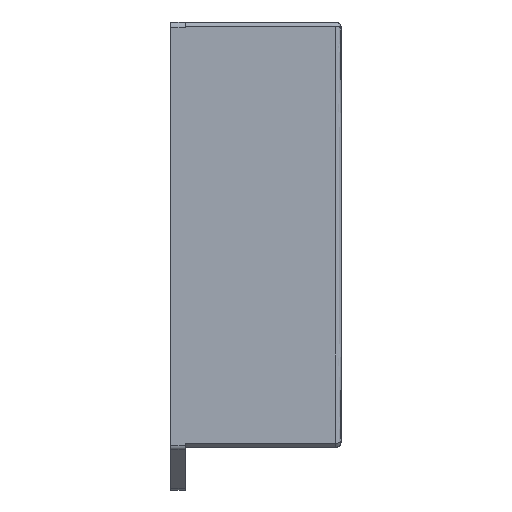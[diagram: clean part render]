
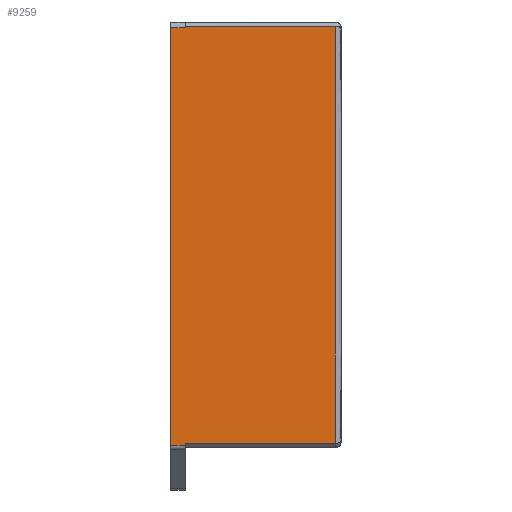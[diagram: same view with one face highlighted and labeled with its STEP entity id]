
A CAD part, left-side view. The second image highlights one B-rep face of the part: STEP entity #9259.
In plain terms, the highlighted free-form (B-spline) face has degree [1, 1] with [2, 2] control points.
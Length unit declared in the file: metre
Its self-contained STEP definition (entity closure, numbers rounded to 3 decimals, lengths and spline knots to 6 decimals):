
#42=LINE('',#12450,#952);
#49=LINE('',#12499,#959);
#205=LINE('',#13135,#1115);
#206=LINE('',#13137,#1116);
#207=LINE('',#13139,#1117);
#208=LINE('',#13140,#1118);
#209=LINE('',#13142,#1119);
#210=LINE('',#13144,#1120);
#952=VECTOR('',#10409,1.);
#959=VECTOR('',#10440,1.);
#1115=VECTOR('',#10834,1.);
#1116=VECTOR('',#10835,1.);
#1117=VECTOR('',#10836,1.);
#1118=VECTOR('',#10837,1.);
#1119=VECTOR('',#10838,1.);
#1120=VECTOR('',#10839,1.);
#1866=B_SPLINE_SURFACE_WITH_KNOTS('',1,1,((#13131,#13132),(#13133,#13134)),
 .PLANE_SURF.,.F.,.F.,.F.,(2,2),(2,2),(0.,1.),(0.,1.),.UNSPECIFIED.);
#2571=ORIENTED_EDGE('',*,*,#5094,.T.);
#2572=ORIENTED_EDGE('',*,*,#5375,.T.);
#2573=ORIENTED_EDGE('',*,*,#5376,.T.);
#2574=ORIENTED_EDGE('',*,*,#5377,.T.);
#2575=ORIENTED_EDGE('',*,*,#5075,.F.);
#2576=ORIENTED_EDGE('',*,*,#5378,.F.);
#2577=ORIENTED_EDGE('',*,*,#5379,.T.);
#2578=ORIENTED_EDGE('',*,*,#5380,.T.);
#5075=EDGE_CURVE('',#6474,#6476,#42,.T.);
#5094=EDGE_CURVE('',#6486,#6487,#49,.T.);
#5375=EDGE_CURVE('',#6487,#6763,#205,.T.);
#5376=EDGE_CURVE('',#6763,#6764,#206,.T.);
#5377=EDGE_CURVE('',#6764,#6476,#207,.F.);
#5378=EDGE_CURVE('',#6765,#6474,#208,.T.);
#5379=EDGE_CURVE('',#6765,#6766,#209,.F.);
#5380=EDGE_CURVE('',#6766,#6486,#210,.F.);
#6474=VERTEX_POINT('',#12448);
#6476=VERTEX_POINT('',#12451);
#6486=VERTEX_POINT('',#12500);
#6487=VERTEX_POINT('',#12501);
#6763=VERTEX_POINT('',#13136);
#6764=VERTEX_POINT('',#13138);
#6765=VERTEX_POINT('',#13141);
#6766=VERTEX_POINT('',#13143);
#7852=EDGE_LOOP('',(#2571,#2572,#2573,#2574,#2575,#2576,#2577,#2578));
#8450=FACE_BOUND('',#7852,.T.);
#9259=ADVANCED_FACE('',(#8450),#1866,.F.);
#10409=DIRECTION('',(0.,0.,-1.));
#10440=DIRECTION('',(0.,0.,-1.));
#10834=DIRECTION('',(0.,1.,0.));
#10835=DIRECTION('',(0.,0.,-1.));
#10836=DIRECTION('',(0.,1.,0.));
#10837=DIRECTION('',(0.,1.,0.));
#10838=DIRECTION('',(0.,0.,-1.));
#10839=DIRECTION('',(0.,-1.,0.));
#12448=CARTESIAN_POINT('',(-0.047,0.0265,-0.1285));
#12450=CARTESIAN_POINT('',(-0.047,0.0265,-0.0625));
#12451=CARTESIAN_POINT('',(-0.047,0.0265,-0.129172));
#12499=CARTESIAN_POINT('',(-0.047,0.0265,-0.055));
#12500=CARTESIAN_POINT('',(-0.047,0.0265,0.0185));
#12501=CARTESIAN_POINT('',(-0.047,0.0265,0.018));
#13131=CARTESIAN_POINT('',(-0.047,0.0315,-0.129172));
#13132=CARTESIAN_POINT('',(-0.047,-0.0265,-0.129172));
#13133=CARTESIAN_POINT('',(-0.047,0.0315,0.0185));
#13134=CARTESIAN_POINT('',(-0.047,-0.0265,0.0185));
#13135=CARTESIAN_POINT('',(-0.047,0.0315,0.018));
#13136=CARTESIAN_POINT('',(-0.047,0.0315,0.018));
#13137=CARTESIAN_POINT('',(-0.047,0.0315,-0.0625));
#13138=CARTESIAN_POINT('',(-0.047,0.0315,-0.129172));
#13139=CARTESIAN_POINT('',(-0.047,0.0265,-0.129172));
#13140=CARTESIAN_POINT('',(-0.047,-0.001,-0.1285));
#13141=CARTESIAN_POINT('',(-0.047,-0.0265,-0.1285));
#13142=CARTESIAN_POINT('',(-0.047,-0.0265,-0.128557));
#13143=CARTESIAN_POINT('',(-0.047,-0.0265,0.0185));
#13144=CARTESIAN_POINT('',(-0.047,-0.001,0.0185));
